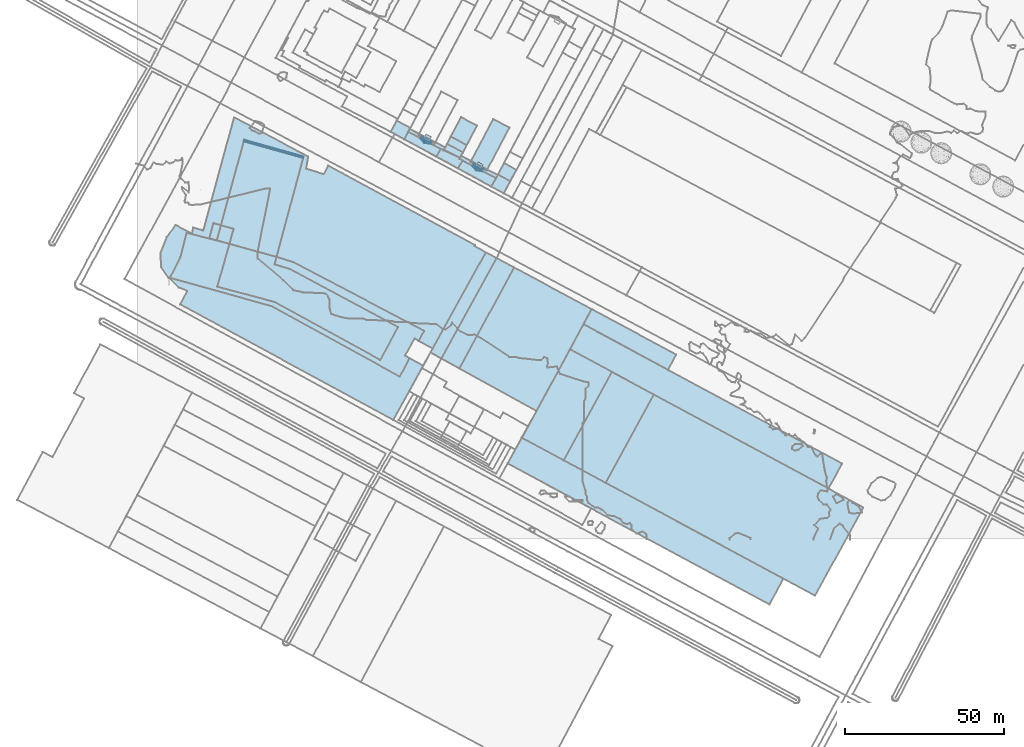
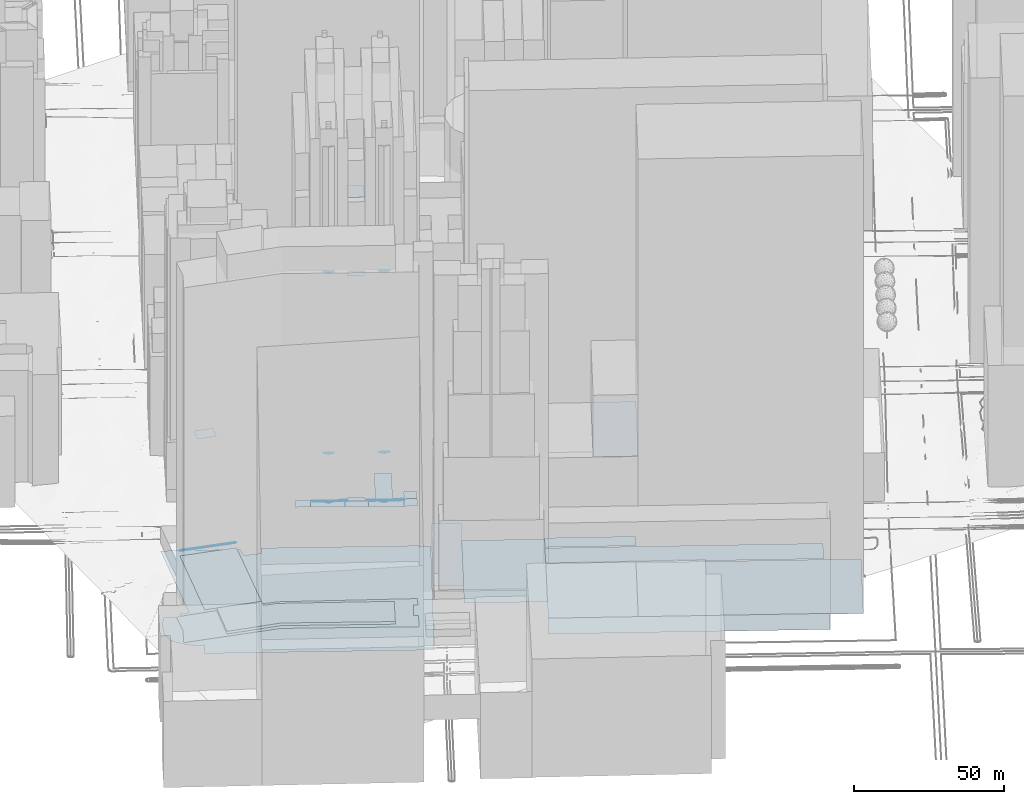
# Not in any storey, part 3 of 80: 32 footings.
"""IFC4 building model written with IfcOpenShell, lengths in metres."""

from ifc_helpers import new_model, si_unit, frame, origin_with_axes, place, context, subcontext, project, spatial, polygons, element, save


model = new_model("IFC4")

# Units and contexts
model_context = context("Model", 3, precision=1e-05, world=origin_with_axes())
body_context = subcontext(model_context, "Body", "Model", "MODEL_VIEW")
ifc_project = project(units=[si_unit("AREAUNIT", "SQUARE_METRE"), si_unit("LENGTHUNIT", "METRE")], contexts=[model_context])

# Sites, building
site_1_placement = place(None, origin_with_axes())
site_1 = spatial("IfcSite", under=ifc_project, at=site_1_placement, Name="Topoexport Site")
site_2_placement = place(site_1_placement, origin_with_axes())
site_2 = spatial("IfcSite", under=site_1, at=site_2_placement, Name="TPX_BATIMENTS")
building_1_placement = place(site_2_placement, frame((116.6281498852, 23.4806453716, 19.8729106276), z_axis=(0.0, 0.0, 1.0), x_axis=(1.0, 0.0, 0.0)))
building_1 = spatial("IfcBuilding", under=site_2, at=building_1_placement, Name="Batiment 15", CompositionType="ELEMENT")

# Footing
footing_1_placement = place(None, frame((116.6281498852, 23.4806453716, 19.8729106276), z_axis=(0.0, 0.0, 1.0), x_axis=(1.0, 0.0, 0.0)))
element("IfcFooting", 1, at=footing_1_placement, inside=building_1, Name="Sol 0", context=body_context, shape_type="Tessellation", body=[
    polygons([(0.0, 0.0, 0.0), (82.4513940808, -44.4055894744, 0.0), (86.7882297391, -36.2283155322, 0.0), (4.4642793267, 8.112091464, 0.0)], [[[2, 1, 4]], [[4, 3, 2]]]),
])

# Building
building_2_placement = place(site_2_placement, frame((147.4689145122, 17.3885478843, 19.6016125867), z_axis=(0.0, 0.0, 1.0), x_axis=(1.0, 0.0, 0.0)))
building_2 = spatial("IfcBuilding", under=site_2, at=building_2_placement, Name="Batiment 16", CompositionType="ELEMENT")

# Footing
footing_2_placement = place(None, frame((147.4689145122, 17.3885478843, 19.6016125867), z_axis=(0.0, 0.0, 1.0), x_axis=(1.0, 0.0, 0.0)))
element("IfcFooting", 2, at=footing_2_placement, inside=building_2, Name="Sol 0", context=body_context, shape_type="Tessellation", body=[
    polygons([(0.0, 0.0, 0.0), (65.9545168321, -35.5265708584, 0.0), (81.1469833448, -7.7163751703, 0.0), (15.1841917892, 27.8099611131, 0.0)], [[[2, 1, 4]], [[4, 3, 2]]]),
])

# Building
building_3_placement = place(site_2_placement, frame((136.2766873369, 59.4026434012, 19.8866502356), z_axis=(0.0, 0.0, 1.0), x_axis=(1.0, 0.0, 0.0)))
building_3 = spatial("IfcBuilding", under=site_2, at=building_3_placement, Name="Batiment 17", CompositionType="ELEMENT")

# Footing
footing_3_placement = place(None, frame((136.2766873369, 59.4026434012, 19.8866502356), z_axis=(0.0, 0.0, 1.0), x_axis=(1.0, 0.0, 0.0)))
element("IfcFooting", 3, at=footing_3_placement, inside=building_3, Name="Sol 0", context=body_context, shape_type="Tessellation", body=[
    polygons([(0.0, 0.0, 0.0), (81.3807730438, -43.8293972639, 0.0), (85.6535269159, -35.9526169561, 0.0), (4.2387920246, 7.8985421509, 0.0)], [[[2, 1, 4]], [[4, 3, 2]]]),
])

# Building
building_4_placement = place(site_2_placement, frame((140.5154793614, 67.301185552, 20.1850862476), z_axis=(0.0, 0.0, 1.0), x_axis=(1.0, 0.0, 0.0)))
building_4 = spatial("IfcBuilding", under=site_2, at=building_4_placement, Name="Batiment 18", CompositionType="ELEMENT")

# Footing
footing_4_placement = place(None, frame((140.5154793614, 67.301185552, 20.1850862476), z_axis=(0.0, 0.0, 1.0), x_axis=(1.0, 0.0, 0.0)))
element("IfcFooting", 4, at=footing_4_placement, inside=building_4, Name="Sol 0", context=body_context, shape_type="Tessellation", body=[
    polygons([(0.0, 0.0, 0.0), (26.597401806, -14.3347775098, 0.0), (29.2006844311, -9.5305509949, 0.0), (2.5614786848, 4.7704244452, 0.0)], [[[2, 1, 4]], [[4, 3, 2]]]),
])

# Building
building_5_placement = place(site_2_placement, frame((121.0924292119, 31.5927368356, 19.8759564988), z_axis=(0.0, 0.0, 1.0), x_axis=(1.0, 0.0, 0.0)))
building_5 = spatial("IfcBuilding", under=site_2, at=building_5_placement, Name="Batiment 19", CompositionType="ELEMENT")

# Footing
footing_5_placement = place(None, frame((121.0924292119, 31.5927368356, 19.8759564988), z_axis=(0.0, 0.0, 1.0), x_axis=(1.0, 0.0, 0.0)))
element("IfcFooting", 5, at=footing_5_placement, inside=building_5, Name="Sol 0", context=body_context, shape_type="Tessellation", body=[
    polygons([(0.0, 0.0, 0.0), (26.3764853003, -14.2041889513, 0.0), (41.5606770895, 13.6057721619, 0.0), (15.1842581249, 27.8099065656, 0.0)], [[[2, 1, 4]], [[4, 3, 2]]]),
])

# Building
building_6_placement = place(site_2_placement, frame((134.2679337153, 24.4960340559, 85.0121369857), z_axis=(0.0, 0.0, 1.0), x_axis=(1.0, 0.0, 0.0)))
building_6 = spatial("IfcBuilding", under=site_2, at=building_6_placement, Name="Batiment 20", CompositionType="ELEMENT")

# Footing
footing_6_placement = place(None, frame((134.2679337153, 24.4960340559, 85.0121369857), z_axis=(0.0, 0.0, 1.0), x_axis=(1.0, 0.0, 0.0)))
element("IfcFooting", 6, at=footing_6_placement, inside=building_6, Name="Sol 0", context=body_context, shape_type="Tessellation", body=[
    polygons([(0.0, 0.0, 0.0), (13.2009807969, -7.1074861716, 0.0), (28.3851725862, 20.7024749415, 0.0), (15.1842249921, 27.8099338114, 0.0)], [[[2, 1, 4]], [[4, 3, 2]]]),
])

# Building
building_7_placement = place(site_2_placement, frame((101.457152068, 53.3915293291, 19.7455046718), z_axis=(0.0, 0.0, 1.0), x_axis=(1.0, 0.0, 0.0)))
building_7 = spatial("IfcBuilding", under=site_2, at=building_7_placement, Name="Batiment 25", CompositionType="ELEMENT")

# Footing
footing_7_placement = place(None, frame((101.457152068, 53.3915293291, 19.7455046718), z_axis=(0.0, 0.0, 1.0), x_axis=(1.0, 0.0, 0.0)))
element("IfcFooting", 7, at=footing_7_placement, inside=building_7, Name="Sol 0", context=body_context, shape_type="Tessellation", body=[
    polygons([(0.0, 0.0, 0.0), (24.273702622, -13.4182208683, 0.0), (41.6198059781, 18.6800806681, 0.0), (17.2230477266, 31.7970531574, 0.0)], [[[2, 1, 4]], [[4, 3, 2]]]),
])

# Building
building_8_placement = place(site_2_placement, frame((92.3322190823, 58.4370010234, 26.7455046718), z_axis=(0.0, 0.0, 1.0), x_axis=(1.0, 0.0, 0.0)))
building_8 = spatial("IfcBuilding", under=site_2, at=building_8_placement, Name="Batiment 26", CompositionType="ELEMENT")

# Footing
footing_8_placement = place(None, frame((92.3322190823, 58.4370010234, 26.7455046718), z_axis=(0.0, 0.0, 1.0), x_axis=(1.0, 0.0, 0.0)))
element("IfcFooting", 8, at=footing_8_placement, inside=building_8, Name="Sol 0", context=body_context, shape_type="Tessellation", body=[
    polygons([(0.0, 0.0, 0.0), (9.1249329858, -5.0454716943, 0.0), (26.3479807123, 26.751581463, 0.0), (17.4371802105, 31.5330646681, 0.0)], [[[2, 1, 4]], [[4, 3, 2]]]),
])

# Building
building_9_placement = place(site_2_placement, frame((111.5045105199, 110.6515077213, 20.6975796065), z_axis=(0.0, 0.0, 1.0), x_axis=(1.0, 0.0, 0.0)))
building_9 = spatial("IfcBuilding", under=site_2, at=building_9_placement, Name="Batiment 28", CompositionType="ELEMENT")

# Footing
footing_9_placement = place(None, frame((111.5045105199, 110.6515077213, 20.6975796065), z_axis=(0.0, 0.0, 1.0), x_axis=(1.0, 0.0, 0.0)))
element("IfcFooting", 9, at=footing_9_placement, inside=building_9, Name="Sol 0", context=body_context, shape_type="Tessellation", body=[
    polygons([(0.0, 0.0, 0.0), (3.9161944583, -2.1194488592, 0.0), (5.9481877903, 1.7233296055, 0.0), (2.0830242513, 3.8100633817, 0.0)], [[[2, 1, 4]], [[4, 3, 2]]]),
])

# Building
building_10_placement = place(site_2_placement, frame((106.7237532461, 117.4349641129, 171.8733820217), z_axis=(0.0, 0.0, 1.0), x_axis=(1.0, 0.0, 0.0)))
building_10 = spatial("IfcBuilding", under=site_2, at=building_10_placement, Name="Batiment 29", CompositionType="ELEMENT")

# Footing
footing_10_placement = place(None, frame((106.7237532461, 117.4349641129, 171.8733820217), z_axis=(0.0, 0.0, 1.0), x_axis=(1.0, 0.0, 0.0)))
element("IfcFooting", 10, at=footing_10_placement, inside=building_10, Name="Sol 0", context=body_context, shape_type="Tessellation", body=[
    polygons([(0.0, 0.0, 0.0), (1.5373911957, -0.8148118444, 0.0), (2.1242849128, 0.2578211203, 0.0), (0.5952053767, 1.0838316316, 0.0)], [[[2, 1, 4]], [[4, 3, 2]]]),
])

# Building
building_11_placement = place(site_2_placement, frame((105.7639228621, 117.9456215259, 113.8537947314), z_axis=(0.0, 0.0, 1.0), x_axis=(1.0, 0.0, 0.0)))
building_11 = spatial("IfcBuilding", under=site_2, at=building_11_placement, Name="Batiment 30", CompositionType="ELEMENT")

# Footing
footing_11_placement = place(None, frame((105.7639228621, 117.9456215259, 113.8537947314), z_axis=(0.0, 0.0, 1.0), x_axis=(1.0, 0.0, 0.0)))
element("IfcFooting", 11, at=footing_11_placement, inside=building_11, Name="Sol 0", context=body_context, shape_type="Tessellation", body=[
    polygons([(0.0, 0.0, 0.0), (1.3516415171, -1.5386158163, 0.0), (3.4401714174, -1.8363224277, 0.0), (2.4972215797, -1.3254692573, 0.0)], [[[2, 1, 4]], [[4, 3, 2]]]),
])

# Building
building_12_placement = place(site_2_placement, frame((101.4674692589, 119.3723193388, 20.7697572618), z_axis=(0.0, 0.0, 1.0), x_axis=(1.0, 0.0, 0.0)))
building_12 = spatial("IfcBuilding", under=site_2, at=building_12_placement, Name="Batiment 31", CompositionType="ELEMENT")

# Footing
footing_12_placement = place(None, frame((101.4674692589, 119.3723193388, 20.7697572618), z_axis=(0.0, 0.0, 1.0), x_axis=(1.0, 0.0, 0.0)))
element("IfcFooting", 12, at=footing_12_placement, inside=building_12, Name="Sol 0", context=body_context, shape_type="Tessellation", body=[
    polygons([(0.0, 0.0, 0.0), (11.4839478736, -6.1060781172, 0.0), (12.0459066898, -5.067041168, 0.0), (8.7673912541, -3.3398654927, 0.0), (8.5775159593, -3.7084452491, 0.0), (0.5287138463, 0.9942409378, 0.0)], [[[2, 1, 6]], [[4, 3, 2]], [[2, 6, 5]], [[5, 4, 2]]]),
])

# Building
building_13_placement = place(site_2_placement, frame((101.0554515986, 116.3255174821, 20.7066671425), z_axis=(0.0, 0.0, 1.0), x_axis=(1.0, 0.0, 0.0)))
building_13 = spatial("IfcBuilding", under=site_2, at=building_13_placement, Name="Batiment 32", CompositionType="ELEMENT")

# Footing
footing_13_placement = place(None, frame((101.0554515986, 116.3255174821, 20.7066671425), z_axis=(0.0, 0.0, 1.0), x_axis=(1.0, 0.0, 0.0)))
element("IfcFooting", 13, at=footing_13_placement, inside=building_13, Name="Sol 0", context=body_context, shape_type="Tessellation", body=[
    polygons([(0.0, 0.0, 0.0), (10.4490589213, -5.6740097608, 0.0), (11.8959655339, -3.0592762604, 0.0), (7.7933107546, -0.875378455, 0.0), (5.7130921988, -0.5664729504, 0.0), (4.3532680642, 0.949843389, 0.0), (1.3463972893, 2.5469505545, 0.0)], [[[2, 1, 7]], [[4, 3, 2]], [[7, 6, 5]], [[5, 4, 2]], [[2, 7, 5]]]),
])

# Building
building_14_placement = place(site_2_placement, frame((105.4087196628, 117.2753608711, 40.8364053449), z_axis=(0.0, 0.0, 1.0), x_axis=(1.0, 0.0, 0.0)))
building_14 = spatial("IfcBuilding", under=site_2, at=building_14_placement, Name="Batiment 33", CompositionType="ELEMENT")

# Footing
footing_14_placement = place(None, frame((105.4087196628, 117.2753608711, 40.8364053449), z_axis=(0.0, 0.0, 1.0), x_axis=(1.0, 0.0, 0.0)))
element("IfcFooting", 14, at=footing_14_placement, inside=building_14, Name="Sol 0", context=body_context, shape_type="Tessellation", body=[
    polygons([(0.0, 0.0, 0.0), (1.3598241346, -1.5163163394, 0.0), (3.4400426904, -1.825221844, 0.0)], [[[2, 1, 3]]]),
])

# Building
building_15_placement = place(site_2_placement, frame((104.948482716, 118.3802403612, 20.8364840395), z_axis=(0.0, 0.0, 1.0), x_axis=(1.0, 0.0, 0.0)))
building_15 = spatial("IfcBuilding", under=site_2, at=building_15_placement, Name="Batiment 34", CompositionType="ELEMENT")

# Footing
footing_15_placement = place(None, frame((104.948482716, 118.3802403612, 20.8364840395), z_axis=(0.0, 0.0, 1.0), x_axis=(1.0, 0.0, 0.0)))
element("IfcFooting", 15, at=footing_15_placement, inside=building_15, Name="Sol 0", context=body_context, shape_type="Tessellation", body=[
    polygons([(0.0, 0.0, 0.0), (5.0965025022, -2.7163662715, 0.0), (12.2665233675, 10.8228483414, 0.0), (7.1619736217, 13.5058093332, 0.0)], [[[2, 1, 4]], [[4, 3, 2]]]),
])

# Building
building_16_placement = place(site_2_placement, frame((113.5875347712, 114.461571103, 20.7566379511), z_axis=(0.0, 0.0, 1.0), x_axis=(1.0, 0.0, 0.0)))
building_16 = spatial("IfcBuilding", under=site_2, at=building_16_placement, Name="Batiment 36", CompositionType="ELEMENT")

# Footing
footing_16_placement = place(None, frame((113.5875347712, 114.461571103, 20.7566379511), z_axis=(0.0, 0.0, 1.0), x_axis=(1.0, 0.0, 0.0)))
element("IfcFooting", 16, at=footing_16_placement, inside=building_16, Name="Sol 0", context=body_context, shape_type="Tessellation", body=[
    polygons([(0.0, 0.0, 0.0), (3.8651635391, -2.0867337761, 0.0), (5.7992221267, 1.4662491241, 0.0), (1.9000401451, 3.5747912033, 0.0)], [[[2, 1, 4]], [[4, 3, 2]]]),
])

# Building
building_17_placement = place(site_2_placement, frame((98.7355611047, 126.3683150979, 140.9622219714), z_axis=(0.0, 0.0, 1.0), x_axis=(1.0, 0.0, 0.0)))
building_17 = spatial("IfcBuilding", under=site_2, at=building_17_placement, Name="Batiment 49", CompositionType="ELEMENT")

# Footing
footing_17_placement = place(None, frame((98.7355611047, 126.3683150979, 140.9622219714), z_axis=(0.0, 0.0, 1.0), x_axis=(1.0, 0.0, 0.0)))
element("IfcFooting", 17, at=footing_17_placement, inside=building_17, Name="Sol 0", context=body_context, shape_type="Tessellation", body=[
    polygons([(0.0, 0.0, 0.0), (5.0366380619, -2.6504521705, 0.0), (8.2830739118, 3.4712880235, 0.0), (3.2464387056, 6.1217379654, 0.0)], [[[2, 1, 4]], [[4, 3, 2]]]),
])

# Building
building_18_placement = place(site_2_placement, frame((89.3637116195, 126.5148286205, 113.9436356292), z_axis=(0.0, 0.0, 1.0), x_axis=(1.0, 0.0, 0.0)))
building_18 = spatial("IfcBuilding", under=site_2, at=building_18_placement, Name="Batiment 188", CompositionType="ELEMENT")

# Footing
footing_18_placement = place(None, frame((89.3637116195, 126.5148286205, 113.9436356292), z_axis=(0.0, 0.0, 1.0), x_axis=(1.0, 0.0, 0.0)))
element("IfcFooting", 18, at=footing_18_placement, inside=building_18, Name="Sol 0", context=body_context, shape_type="Tessellation", body=[
    polygons([(0.0, 0.0, 0.0), (1.4178709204, -1.4268270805, 0.0), (3.4315938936, -1.825327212, 0.0), (0.9512587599, -0.4996567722, 0.0)], [[[2, 1, 4]], [[4, 3, 2]]]),
])

# Building
building_19_placement = place(site_2_placement, frame((90.3149703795, 126.0151718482, 171.9493104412), z_axis=(0.0, 0.0, 1.0), x_axis=(1.0, 0.0, 0.0)))
building_19 = spatial("IfcBuilding", under=site_2, at=building_19_placement, Name="Batiment 189", CompositionType="ELEMENT")

# Footing
footing_19_placement = place(None, frame((90.3149703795, 126.0151718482, 171.9493104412), z_axis=(0.0, 0.0, 1.0), x_axis=(1.0, 0.0, 0.0)))
element("IfcFooting", 19, at=footing_19_placement, inside=building_19, Name="Sol 0", context=body_context, shape_type="Tessellation", body=[
    polygons([(0.0, 0.0, 0.0), (1.5289471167, -0.8149132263, 0.0), (2.1906461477, 0.358507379, 0.0), (0.6615702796, 1.1845212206, 0.0)], [[[2, 1, 4]], [[4, 3, 2]]]),
])

# Building
building_20_placement = place(site_2_placement, frame((89.049807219, 125.9227641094, 40.9291720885), z_axis=(0.0, 0.0, 1.0), x_axis=(1.0, 0.0, 0.0)))
building_20 = spatial("IfcBuilding", under=site_2, at=building_20_placement, Name="Batiment 190", CompositionType="ELEMENT")

# Footing
footing_20_placement = place(None, frame((89.049807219, 125.9227641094, 40.9291720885), z_axis=(0.0, 0.0, 1.0), x_axis=(1.0, 0.0, 0.0)))
element("IfcFooting", 20, at=footing_20_placement, inside=building_20, Name="Sol 0", context=body_context, shape_type="Tessellation", body=[
    polygons([(0.0, 0.0, 0.0), (1.3513787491, -1.5164173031, 0.0), (3.4399056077, -1.8141285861, 0.0)], [[[2, 1, 3]]]),
])

# Building
building_21_placement = place(site_2_placement, frame((85.346445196, 127.8892664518, 20.9224524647), z_axis=(0.0, 0.0, 1.0), x_axis=(1.0, 0.0, 0.0)))
building_21 = spatial("IfcBuilding", under=site_2, at=building_21_placement, Name="Batiment 191", CompositionType="ELEMENT")

# Footing
footing_21_placement = place(None, frame((85.346445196, 127.8892664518, 20.9224524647), z_axis=(0.0, 0.0, 1.0), x_axis=(1.0, 0.0, 0.0)))
element("IfcFooting", 21, at=footing_21_placement, inside=building_21, Name="Sol 0", context=body_context, shape_type="Tessellation", body=[
    polygons([(0.0, 0.0, 0.0), (11.0759435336, -5.8665913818, 0.0), (11.6132272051, -4.8833535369, 0.0), (8.5131290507, -3.254018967, 0.0), (8.2981897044, -3.6450938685, 0.0), (7.4488603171, -3.1997650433, 0.0), (0.5122211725, 0.9607414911, 0.0)], [[[2, 1, 7]], [[4, 3, 2]], [[2, 7, 6]], [[5, 4, 2]], [[2, 6, 5]]]),
])

# Building
building_22_placement = place(site_2_placement, frame((79.7834254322, 127.8912834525, 20.9495116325), z_axis=(0.0, 0.0, 1.0), x_axis=(1.0, 0.0, 0.0)))
building_22 = spatial("IfcBuilding", under=site_2, at=building_22_placement, Name="Batiment 194", CompositionType="ELEMENT")

# Footing
footing_22_placement = place(None, frame((79.7834254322, 127.8912834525, 20.9495116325), z_axis=(0.0, 0.0, 1.0), x_axis=(1.0, 0.0, 0.0)))
element("IfcFooting", 22, at=footing_22_placement, inside=building_22, Name="Sol 0", context=body_context, shape_type="Tessellation", body=[
    polygons([(0.0, 0.0, 0.0), (4.3157123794, -2.3590755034, 0.0), (6.2321287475, 1.260307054, 0.0), (1.9932839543, 3.5425582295, 0.0)], [[[2, 1, 4]], [[4, 3, 2]]]),
])

# Building
building_23_placement = place(site_2_placement, frame((22.7189740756, 94.3773567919, 88.9019969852), z_axis=(0.0, 0.0, 1.0), x_axis=(1.0, 0.0, 0.0)))
building_23 = spatial("IfcBuilding", under=site_2, at=building_23_placement, Name="Batiment 199", CompositionType="ELEMENT")

# Footing
footing_23_placement = place(None, frame((22.7189740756, 94.3773567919, 88.9019969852), z_axis=(0.0, 0.0, 1.0), x_axis=(1.0, 0.0, 0.0)))
element("IfcFooting", 23, at=footing_23_placement, inside=building_23, Name="Sol 0", context=body_context, shape_type="Tessellation", body=[
    polygons([(0.0, 0.0, 0.0), (6.3601779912, -1.7691695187, 0.0), (7.681097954, 2.9757163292, 0.0), (1.3210524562, 4.7337839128, 0.0)], [[[2, 1, 4]], [[4, 3, 2]]]),
])

# Building
building_24_placement = place(site_2_placement, frame((25.0902924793, 93.7165336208, 19.1898978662), z_axis=(0.0, 0.0, 1.0), x_axis=(1.0, 0.0, 0.0)))
building_24 = spatial("IfcBuilding", under=site_2, at=building_24_placement, Name="Batiment 200", CompositionType="ELEMENT")

# Footing
footing_24_placement = place(None, frame((25.0902924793, 93.7165336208, 19.1898978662), z_axis=(0.0, 0.0, 1.0), x_axis=(1.0, 0.0, 0.0)))
element("IfcFooting", 24, at=footing_24_placement, inside=building_24, Name="Sol 0", context=body_context, shape_type="Tessellation", body=[
    polygons([(0.0, 0.0, 0.0), (18.8092921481, -5.2107143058, 0.0), (27.1849139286, 25.928386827, 0.0), (8.4934731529, 31.1737525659, 0.0)], [[[2, 1, 4]], [[4, 3, 2]]]),
])

# Building
building_25_placement = place(site_2_placement, frame((33.5837656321, 124.8902861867, 21.1228938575), z_axis=(0.0, 0.0, 1.0), x_axis=(1.0, 0.0, 0.0)))
building_25 = spatial("IfcBuilding", under=site_2, at=building_25_placement, Name="Batiment 201", CompositionType="ELEMENT")

# Footing
footing_25_placement = place(None, frame((33.5837656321, 124.8902861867, 21.1228938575), z_axis=(0.0, 0.0, 1.0), x_axis=(1.0, 0.0, 0.0)))
element("IfcFooting", 25, at=footing_25_placement, inside=building_25, Name="Sol 0", context=body_context, shape_type="Tessellation", body=[
    polygons([(0.0, 0.0, 0.0), (18.6914407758, -5.2453657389, 0.0), (18.8375703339, -4.7440683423, 0.0), (0.1460018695, 0.512397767, 0.0)], [[[2, 1, 4]], [[4, 3, 2]]]),
])

# Building
building_26_placement = place(site_2_placement, frame((84.0991378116, 125.5322079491, 20.8772412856), z_axis=(0.0, 0.0, 1.0), x_axis=(1.0, 0.0, 0.0)))
building_26 = spatial("IfcBuilding", under=site_2, at=building_26_placement, Name="Batiment 202", CompositionType="ELEMENT")

# Footing
footing_26_placement = place(None, frame((84.0991378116, 125.5322079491, 20.8772412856), z_axis=(0.0, 0.0, 1.0), x_axis=(1.0, 0.0, 0.0)))
element("IfcFooting", 26, at=footing_26_placement, inside=building_26, Name="Sol 0", context=body_context, shape_type="Tessellation", body=[
    polygons([(0.0, 0.0, 0.0), (10.0753325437, -5.4785327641, 0.0), (11.4144512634, -3.0315882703, 0.0), (8.3905750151, -1.4235724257, 0.0), (6.3020481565, -1.1258611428, 0.0), (4.9506694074, 0.3905561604, 0.0), (1.2473073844, 2.3570585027, 0.0)], [[[2, 1, 7]], [[4, 3, 2]], [[7, 6, 5]], [[5, 4, 2]], [[2, 7, 5]]]),
])

# Building
building_27_placement = place(site_2_placement, frame((97.5295573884, 124.0894496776, 110.9435975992), z_axis=(0.0, 0.0, 1.0), x_axis=(1.0, 0.0, 0.0)))
building_27 = spatial("IfcBuilding", under=site_2, at=building_27_placement, Name="Batiment 203", CompositionType="ELEMENT")

# Footing
footing_27_placement = place(None, frame((97.5295573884, 124.0894496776, 110.9435975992), z_axis=(0.0, 0.0, 1.0), x_axis=(1.0, 0.0, 0.0)))
element("IfcFooting", 27, at=footing_27_placement, inside=building_27, Name="Sol 0", context=body_context, shape_type="Tessellation", body=[
    polygons([(0.0, 0.0, 0.0), (5.0366391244, -2.6504529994, 0.0), (6.2426417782, -0.3715867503, 0.0), (1.2060037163, 2.2788654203, 0.0)], [[[2, 1, 4]], [[4, 3, 2]]]),
])

# Building
building_28_placement = place(site_2_placement, frame((96.571222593, 122.290857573, 20.9256419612), z_axis=(0.0, 0.0, 1.0), x_axis=(1.0, 0.0, 0.0)))
building_28 = spatial("IfcBuilding", under=site_2, at=building_28_placement, Name="Batiment 204", CompositionType="ELEMENT")

# Footing
footing_28_placement = place(None, frame((96.571222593, 122.290857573, 20.9256419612), z_axis=(0.0, 0.0, 1.0), x_axis=(1.0, 0.0, 0.0)))
element("IfcFooting", 28, at=footing_28_placement, inside=building_28, Name="Sol 0", context=body_context, shape_type="Tessellation", body=[
    polygons([(0.0, 0.0, 0.0), (5.0532629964, -2.6280560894, 0.0), (5.9949739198, -0.8518608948, 0.0), (0.9583347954, 1.7985921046, 0.0)], [[[2, 1, 4]], [[4, 3, 2]]]),
])

# Building
building_29_placement = place(site_2_placement, frame((94.1744703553, 120.053675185, 20.8772412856), z_axis=(0.0, 0.0, 1.0), x_axis=(1.0, 0.0, 0.0)))
building_29 = spatial("IfcBuilding", under=site_2, at=building_29_placement, Name="Batiment 205", CompositionType="ELEMENT")

# Footing
footing_29_placement = place(None, frame((94.1744703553, 120.053675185, 20.8772412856), z_axis=(0.0, 0.0, 1.0), x_axis=(1.0, 0.0, 0.0)))
element("IfcFooting", 29, at=footing_29_placement, inside=building_29, Name="Sol 0", context=body_context, shape_type="Tessellation", body=[
    polygons([(0.0, 0.0, 0.0), (6.8809812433, -3.7281577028, 0.0), (8.2273785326, -1.1812071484, 0.0), (7.2929989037, -0.6813558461, 0.0), (7.4500152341, -0.3908737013, 0.0), (1.3391187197, 2.4469444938, 0.0)], [[[2, 1, 6]], [[4, 3, 2]], [[6, 5, 4]], [[4, 2, 6]]]),
])

# Building
building_30_placement = place(site_2_placement, frame((7.3491025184, 89.8136402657, 17.7214611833), z_axis=(0.0, 0.0, 1.0), x_axis=(1.0, 0.0, 0.0)))
building_30 = spatial("IfcBuilding", under=site_2, at=building_30_placement, Name="Batiment 206", CompositionType="ELEMENT")

# Footing
footing_30_placement = place(None, frame((7.3491025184, 89.8136402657, 17.7214611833), z_axis=(0.0, 0.0, 1.0), x_axis=(1.0, 0.0, 0.0)))
element("IfcFooting", 30, at=footing_30_placement, inside=building_30, Name="Sol 0", context=body_context, shape_type="Tessellation", body=[
    polygons([(0.0, 0.0, 0.0), (0.2453875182, -4.415847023, 0.0), (2.6154001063, -7.8744561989, 0.0), (5.7231550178, -10.8915176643, 0.0), (8.4542586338, -12.0033616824, 0.0), (6.1566151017, -16.2377711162, 0.0), (73.2845572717, -52.5956527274, 0.0), (102.4202967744, 0.1564254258, 0.0), (98.8779250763, 2.0692765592, 0.0), (99.0514359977, 2.3932571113, 0.0), (52.8636652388, 27.4365171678, 0.0), (51.4007622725, 24.7438929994, 0.0), (45.8767148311, 26.4783333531, 0.0), (46.5332031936, 30.282922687, 0.0), (23.1839558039, 42.6351800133, 0.0), (13.5007386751, 7.051135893, 0.0), (10.3255164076, 7.8802686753, 0.0), (9.9255178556, 5.9771433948, 0.0), (4.7352910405, 8.7702011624, 0.0), (2.0193040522, 4.9417221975, 0.0)], [[[2, 1, 20]], [[4, 3, 2]], [[7, 6, 5]], [[9, 8, 7]], [[11, 10, 9]], [[15, 14, 13]], [[18, 17, 16]], [[20, 19, 18]], [[4, 2, 20]], [[9, 7, 5]], [[12, 11, 9]], [[16, 15, 13]], [[4, 20, 18]], [[9, 5, 4]], [[13, 12, 9]], [[4, 18, 16]], [[13, 9, 4]], [[4, 16, 13]]]),
])

# Building
building_31_placement = place(site_2_placement, frame((25.2509816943, 79.141148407, 19.2330182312), z_axis=(0.0, 0.0, 1.0), x_axis=(1.0, 0.0, 0.0)))
building_31 = spatial("IfcBuilding", under=site_2, at=building_31_placement, Name="Batiment 207", CompositionType="ELEMENT")

# Footing
footing_31_placement = place(None, frame((25.2509816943, 79.141148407, 19.2330182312), z_axis=(0.0, 0.0, 1.0), x_axis=(1.0, 0.0, 0.0)))
element("IfcFooting", 31, at=footing_31_placement, inside=building_31, Name="Sol 0", context=body_context, shape_type="Tessellation", body=[
    polygons([(0.0, 0.0, 0.0), (18.0873774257, -4.830514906, 0.0), (51.3228673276, -23.0742728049, 0.0), (56.8754076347, -12.7180175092, 0.0), (22.7612366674, 5.593231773, 0.0), (18.0174305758, 7.0147710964, 0.0), (18.648602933, 9.3646709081, 0.0), (3.8281703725, 13.4670388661, 0.0)], [[[2, 1, 8]], [[4, 3, 2]], [[6, 5, 4]], [[8, 7, 6]], [[4, 2, 8]], [[8, 6, 4]]]),
])

# Building
building_32_placement = place(site_2_placement, frame((10.2935527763, 81.9541038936, 18.1747184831), z_axis=(0.0, 0.0, 1.0), x_axis=(1.0, 0.0, 0.0)))
building_32 = spatial("IfcBuilding", under=site_2, at=building_32_placement, Name="Batiment 217", CompositionType="ELEMENT")

# Footing
footing_32_placement = place(None, frame((10.2935527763, 81.9541038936, 18.1747184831), z_axis=(0.0, 0.0, 1.0), x_axis=(1.0, 0.0, 0.0)))
element("IfcFooting", 32, at=footing_32_placement, inside=building_32, Name="Sol 0", context=body_context, shape_type="Tessellation", body=[
    polygons([(0.0, 0.0, 0.0), (32.0809116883, -8.9647227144, 0.0), (72.4107688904, -31.1340236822, 0.0), (75.4666046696, -25.3142687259, 0.0), (74.0393172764, -24.5314802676, 0.0), (77.0243404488, -19.1566367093, 0.0), (78.3921568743, -19.9068084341, 0.0), (80.0687125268, -16.7120963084, 0.0), (38.8417037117, 4.9360451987, 0.0), (33.606031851, 6.5517154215, 0.0), (32.9748594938, 4.2018156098, 0.0), (37.7186655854, 2.7802762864, 0.0), (71.8328365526, -15.5309729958, 0.0), (66.2802962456, -25.8872282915, 0.0), (33.0448063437, -7.6434703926, 0.0), (14.957428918, -2.8129554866, 0.0), (18.7855992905, 10.6540833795, 0.0), (5.3227427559, 14.1616083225, 0.0), (3.3283605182, 6.3446916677, 0.0)], [[[5, 4, 3]], [[8, 7, 6]], [[10, 9, 8]], [[12, 11, 10]], [[18, 17, 16]], [[12, 10, 8]], [[19, 18, 16]], [[13, 12, 8]], [[1, 19, 16]], [[13, 8, 6]], [[1, 16, 15]], [[13, 6, 5]], [[2, 1, 15]], [[13, 5, 3]], [[2, 15, 14]], [[14, 13, 3]], [[3, 2, 14]]]),
])

save(model, "model.ifc")
